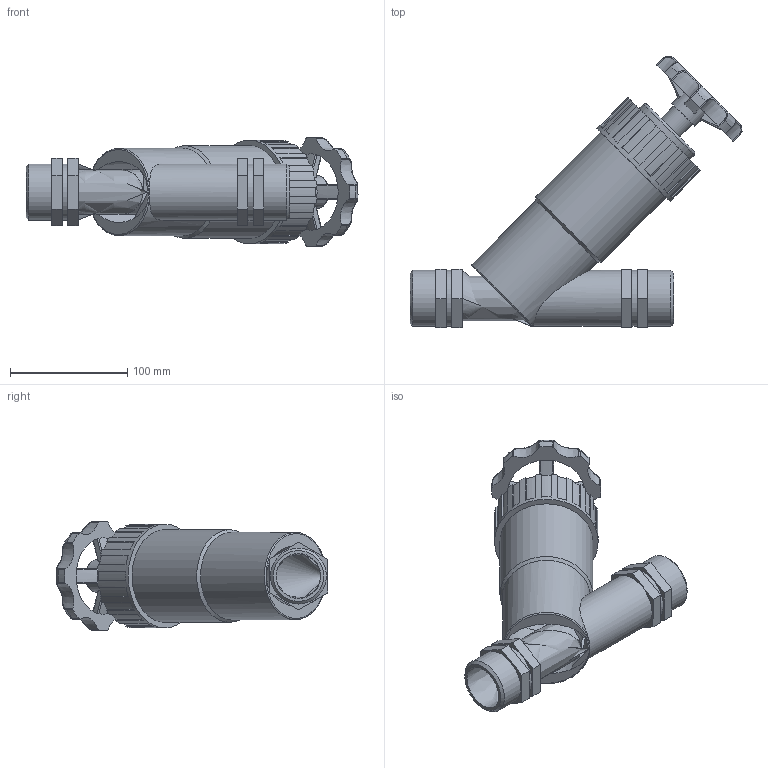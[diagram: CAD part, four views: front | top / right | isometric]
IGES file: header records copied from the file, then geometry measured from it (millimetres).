
Global section: file name: 03047188_030471880A_03049188.ipt; native system: Autodesk Inventor 2015; preprocessor: unknown; author: KIM; date: 20170619.121259; units: millimetre
Bounding box: 283.47 x 231.85 x 93.11 mm (x, y, z)
Volume: 950125.1 mm3; surface area: 130623.6 mm2
Topology: 2 solids, 3 shells, 222 faces, 598 edges, 388 vertices
Faces by surface type: plane 110, cylinder 57, bspline 26, revolution 22, cone 7
Full cylindrical faces by diameter (mm): 22.356 x1, 27.945 x1, 47.803 x6, 61.479 x1, 74.52 x1, 79.177 x1, 88.493 x1
